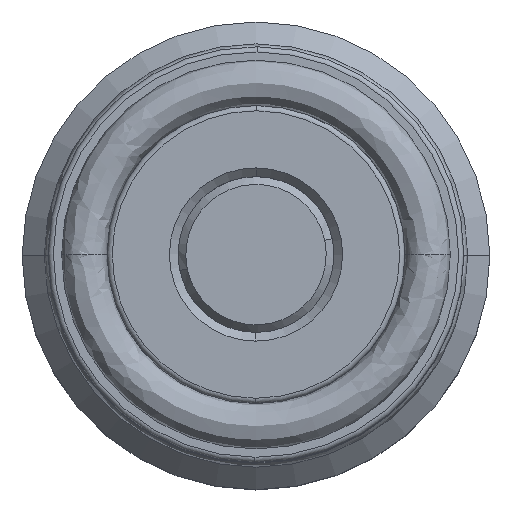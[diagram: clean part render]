
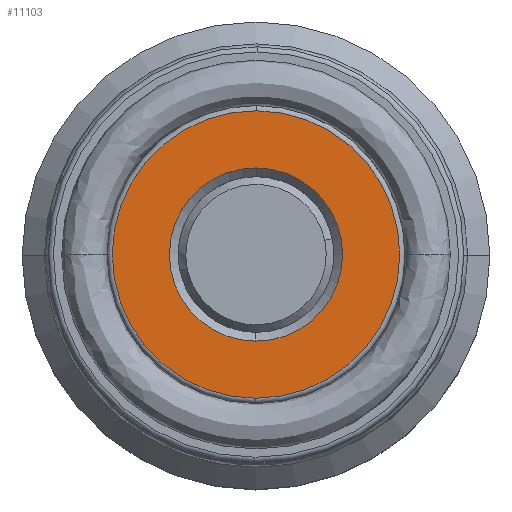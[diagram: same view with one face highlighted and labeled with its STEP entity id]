
A CAD part, top view. The second image highlights one B-rep face of the part: STEP entity #11103.
In plain terms, the highlighted planar face has unit normal (0, 0, 1).
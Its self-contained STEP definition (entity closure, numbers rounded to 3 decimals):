
#393 = AXIS2_PLACEMENT_3D ( 'NONE', #3294, #11229, #4452 ) ;
#412 = FACE_BOUND ( 'NONE', #8701, .T. ) ;
#596 = DIRECTION ( 'NONE',  ( 0., 0., 1. ) ) ;
#1213 = DIRECTION ( 'NONE',  ( 0.005, 1., 0. ) ) ;
#1479 = VERTEX_POINT ( 'NONE', #6061 ) ;
#1485 = EDGE_CURVE ( 'NONE', #1479, #9556, #6377, .T. ) ;
#1579 = DIRECTION ( 'NONE',  ( 0., 0., -1. ) ) ;
#1598 = AXIS2_PLACEMENT_3D ( 'NONE', #6353, #2573, #1213 ) ;
#1656 = CARTESIAN_POINT ( 'NONE',  ( 0.041, 8.3, -5.5 ) ) ;
#1820 = CIRCLE ( 'NONE', #5654, 8.3 ) ;
#1866 = AXIS2_PLACEMENT_3D ( 'NONE', #12733, #1579, #12630 ) ;
#1926 = EDGE_CURVE ( 'NONE', #11086, #3098, #4803, .T. ) ;
#2051 = EDGE_LOOP ( 'NONE', ( #3229, #3280 ) ) ;
#2273 = CARTESIAN_POINT ( 'NONE',  ( 0., 0., -5.5 ) ) ;
#2573 = DIRECTION ( 'NONE',  ( 0., 0., 1. ) ) ;
#3098 = VERTEX_POINT ( 'NONE', #10042 ) ;
#3229 = ORIENTED_EDGE ( 'NONE', *, *, #1926, .T. ) ;
#3280 = ORIENTED_EDGE ( 'NONE', *, *, #6274, .T. ) ;
#3294 = CARTESIAN_POINT ( 'NONE',  ( 0., 0., -5.5 ) ) ;
#3399 = DIRECTION ( 'NONE',  ( 0.005, 1., 0. ) ) ;
#4452 = DIRECTION ( 'NONE',  ( 0.005, 1., 0. ) ) ;
#4803 = CIRCLE ( 'NONE', #1598, 8.3 ) ;
#5654 = AXIS2_PLACEMENT_3D ( 'NONE', #2273, #10177, #3399 ) ;
#6061 = CARTESIAN_POINT ( 'NONE',  ( 0.025, 5., -5.5 ) ) ;
#6274 = EDGE_CURVE ( 'NONE', #3098, #11086, #1820, .T. ) ;
#6353 = CARTESIAN_POINT ( 'NONE',  ( 0., 0., -5.5 ) ) ;
#6377 = CIRCLE ( 'NONE', #1866, 5. ) ;
#6902 = AXIS2_PLACEMENT_3D ( 'NONE', #7333, #596, #8480 ) ;
#7199 = PLANE ( 'NONE',  #6902 ) ;
#7260 = CARTESIAN_POINT ( 'NONE',  ( -0.025, -5., -5.5 ) ) ;
#7333 = CARTESIAN_POINT ( 'NONE',  ( 0., 0., -5.5 ) ) ;
#7597 = ORIENTED_EDGE ( 'NONE', *, *, #14003, .T. ) ;
#8480 = DIRECTION ( 'NONE',  ( 0.005, 1., 0. ) ) ;
#8701 = EDGE_LOOP ( 'NONE', ( #11559, #7597 ) ) ;
#9556 = VERTEX_POINT ( 'NONE', #7260 ) ;
#10042 = CARTESIAN_POINT ( 'NONE',  ( -0.041, -8.3, -5.5 ) ) ;
#10177 = DIRECTION ( 'NONE',  ( 0., 0., 1. ) ) ;
#11086 = VERTEX_POINT ( 'NONE', #1656 ) ;
#11103 = ADVANCED_FACE ( 'NONE', ( #412, #12011 ), #7199, .T. ) ;
#11229 = DIRECTION ( 'NONE',  ( 0., 0., -1. ) ) ;
#11559 = ORIENTED_EDGE ( 'NONE', *, *, #1485, .T. ) ;
#12011 = FACE_OUTER_BOUND ( 'NONE', #2051, .T. ) ;
#12561 = CIRCLE ( 'NONE', #393, 5. ) ;
#12630 = DIRECTION ( 'NONE',  ( 0.005, 1., 0. ) ) ;
#12733 = CARTESIAN_POINT ( 'NONE',  ( 0., 0., -5.5 ) ) ;
#14003 = EDGE_CURVE ( 'NONE', #9556, #1479, #12561, .T. ) ;
